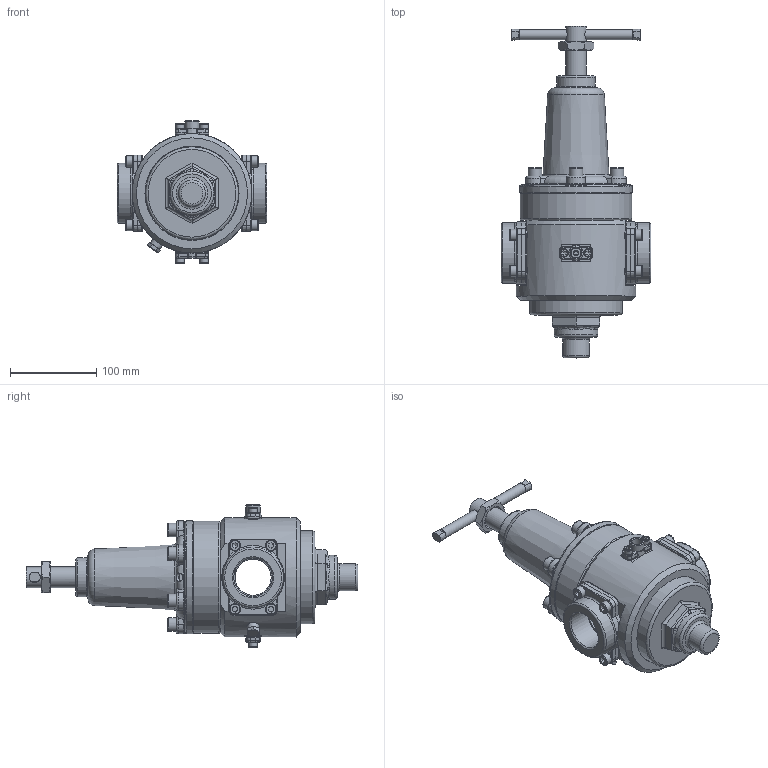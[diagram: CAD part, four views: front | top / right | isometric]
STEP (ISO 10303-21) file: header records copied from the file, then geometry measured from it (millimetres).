
FILE_DESCRIPTION(/* description */ (''),/* implementation_level */ '2;1');
FILE_NAME(/* name */ 'B-R120-12F-G_02.step',/* time_stamp */ '2022-11-09T15:29:40+01:00',/* author */ (''),/* organization */ (''),/* preprocessor_version */ 'ST-DEVELOPER v19.2',/* originating_system */ 'Autodesk Translation Framework v11.17.0.187',/* authorisation */ '');
FILE_SCHEMA (('AUTOMOTIVE_DESIGN { 1 0 10303 214 3 1 1 }'));
Length unit declared in the file: millimetre
Products named in the file (29): (Nicht gespeichert); P20692; OR 07021; 0DC10410; OR 13157; 0DC10513; 0DC10513_1; 0DC10513_2; 0DC10513_3; 0DC10513_4; 0DC10513_5; 0DC10513_6; 0DC10513_7; P37129; P37131; P34014; 0DC10621; 0DC10621_1; 0DC10621_2; P34088; P21037; P37162; 0DC10621_3; 0DC10621_4; 0DC10621_5; P26127; C43007 (1); C43007; 0DNH1500
Assembly tree (34 placements, depth 3):
  (Nicht gespeichert)
    P20692
    OR 13157  x2
    OR 07021  x2
    0DC10410  x4
    0DC10513
    0DC10513_1
    0DC10513_2
    0DC10513_3
    0DC10513_4
    0DC10513_5
    0DC10513_6
    0DC10513_7
    P37129
    P37131
    P34014
    0DC10621
    0DC10621_1
    0DC10621_2
    P34088
    P21037
    P37162  x2
    0DC10621_3
    0DC10621_4
    0DC10621_5
    P26127
    C43007 (1)
      C43007
      0DNH1500
Bounding box: 174 x 386 x 165.6 mm (x, y, z)
Volume: 994310 mm3; surface area: 343154.3 mm2
Topology: 35 solids, 35 shells, 1032 faces, 2589 edges, 1643 vertices
Faces by surface type: plane 362, cylinder 255, torus 154, cone 150, bspline 111
Full cylindrical faces by diameter (mm): 4.917 x4, 5.1 x2, 5.5 x1, 5.6 x1, 6 x4, 6.5 x4, 6.647 x8, 7.7 x2, 8 x8, 8.5 x8, 10 x11, 11 x1, 11.2 x2, 11.3 x6, 11.445 x2, 12 x1, 12.3 x1, 13 x8, 13.157 x1, 16 x6, 16.5 x1, 22 x1, 24 x2, 25 x1, 30 x2, 31 x1, 42 x1, 44 x1, 44.845 x2, 45 x2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
Entity records: 40133 total; most frequent: CARTESIAN_POINT 17441, ORIENTED_EDGE 4590, DIRECTION 4442, EDGE_CURVE 2295, AXIS2_PLACEMENT_3D 1854, VERTEX_POINT 1468, EDGE_LOOP 1029, CIRCLE 917
